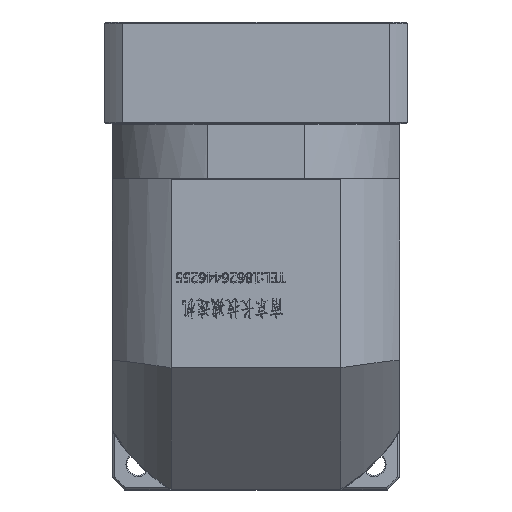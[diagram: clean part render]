
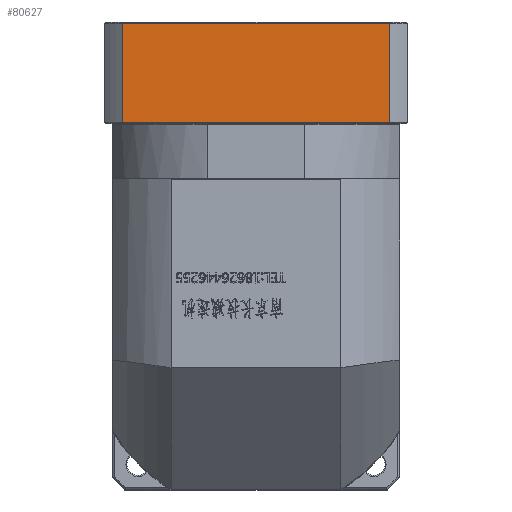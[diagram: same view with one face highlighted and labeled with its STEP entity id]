
A CAD part, top view. The second image highlights one B-rep face of the part: STEP entity #80627.
In plain terms, the highlighted planar face has unit normal (0, 0, 1).
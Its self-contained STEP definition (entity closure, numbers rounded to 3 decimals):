
#2930 = CARTESIAN_POINT ( 'NONE',  ( -25.11, 110.416, 420.274 ) ) ;
#6650 = DIRECTION ( 'NONE',  ( 1., 0., 0. ) ) ;
#11562 = EDGE_CURVE ( 'NONE', #139816, #79971, #34425, .T. ) ;
#20284 = LINE ( 'NONE', #169102, #39393 ) ;
#27373 = DIRECTION ( 'NONE',  ( 0., 1., 0. ) ) ;
#32845 = LINE ( 'NONE', #136861, #130826 ) ;
#34425 = LINE ( 'NONE', #104248, #164302 ) ;
#38621 = VERTEX_POINT ( 'NONE', #95292 ) ;
#39393 = VECTOR ( 'NONE', #74140, 1000. ) ;
#39931 = EDGE_CURVE ( 'NONE', #165345, #38621, #20284, .T. ) ;
#56728 = AXIS2_PLACEMENT_3D ( 'NONE', #124021, #97317, #83759 ) ;
#71262 = EDGE_LOOP ( 'NONE', ( #156649, #174411, #169386, #118490 ) ) ;
#74140 = DIRECTION ( 'NONE',  ( 1., 0., 0. ) ) ;
#77074 = DIRECTION ( 'NONE',  ( 0., -1., 0. ) ) ;
#77547 = CARTESIAN_POINT ( 'NONE',  ( -25.11, 61.416, 420.274 ) ) ;
#79971 = VERTEX_POINT ( 'NONE', #173965 ) ;
#80627 = ADVANCED_FACE ( 'NONE', ( #127709 ), #164517, .F. ) ;
#82104 = VECTOR ( 'NONE', #77074, 1000. ) ;
#83759 = DIRECTION ( 'NONE',  ( 0., -1., 0. ) ) ;
#95292 = CARTESIAN_POINT ( 'NONE',  ( 107.177, 61.416, 420.274 ) ) ;
#97317 = DIRECTION ( 'NONE',  ( 0., 0., -1. ) ) ;
#104248 = CARTESIAN_POINT ( 'NONE',  ( 116.034, 110.416, 420.274 ) ) ;
#118144 = LINE ( 'NONE', #158487, #82104 ) ;
#118490 = ORIENTED_EDGE ( 'NONE', *, *, #11562, .F. ) ;
#124021 = CARTESIAN_POINT ( 'NONE',  ( 116.034, 110.916, 420.274 ) ) ;
#127709 = FACE_OUTER_BOUND ( 'NONE', #71262, .T. ) ;
#130826 = VECTOR ( 'NONE', #27373, 1000. ) ;
#133313 = EDGE_CURVE ( 'NONE', #79971, #38621, #118144, .T. ) ;
#136861 = CARTESIAN_POINT ( 'NONE',  ( -25.11, 110.916, 420.274 ) ) ;
#139816 = VERTEX_POINT ( 'NONE', #2930 ) ;
#148539 = EDGE_CURVE ( 'NONE', #165345, #139816, #32845, .T. ) ;
#156649 = ORIENTED_EDGE ( 'NONE', *, *, #148539, .F. ) ;
#158487 = CARTESIAN_POINT ( 'NONE',  ( 107.177, -224.755, 420.274 ) ) ;
#164302 = VECTOR ( 'NONE', #6650, 1000. ) ;
#164517 = PLANE ( 'NONE',  #56728 ) ;
#165345 = VERTEX_POINT ( 'NONE', #77547 ) ;
#169102 = CARTESIAN_POINT ( 'NONE',  ( 116.034, 61.416, 420.274 ) ) ;
#169386 = ORIENTED_EDGE ( 'NONE', *, *, #133313, .F. ) ;
#173965 = CARTESIAN_POINT ( 'NONE',  ( 107.177, 110.416, 420.274 ) ) ;
#174411 = ORIENTED_EDGE ( 'NONE', *, *, #39931, .T. ) ;
